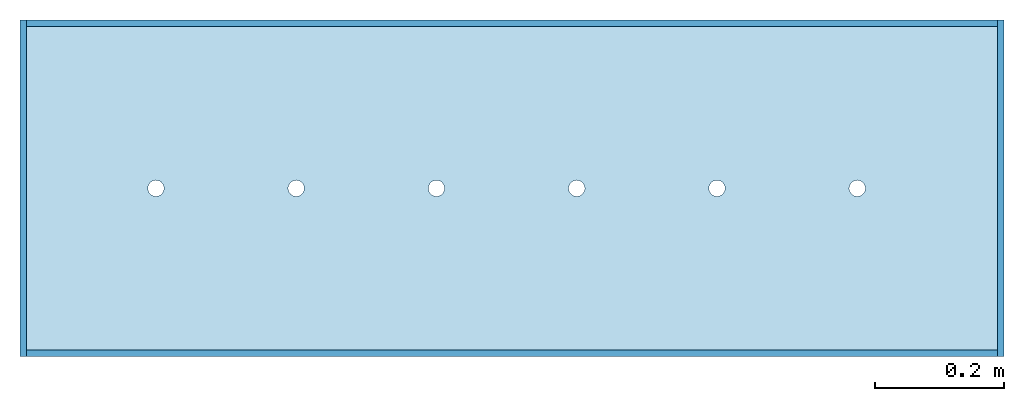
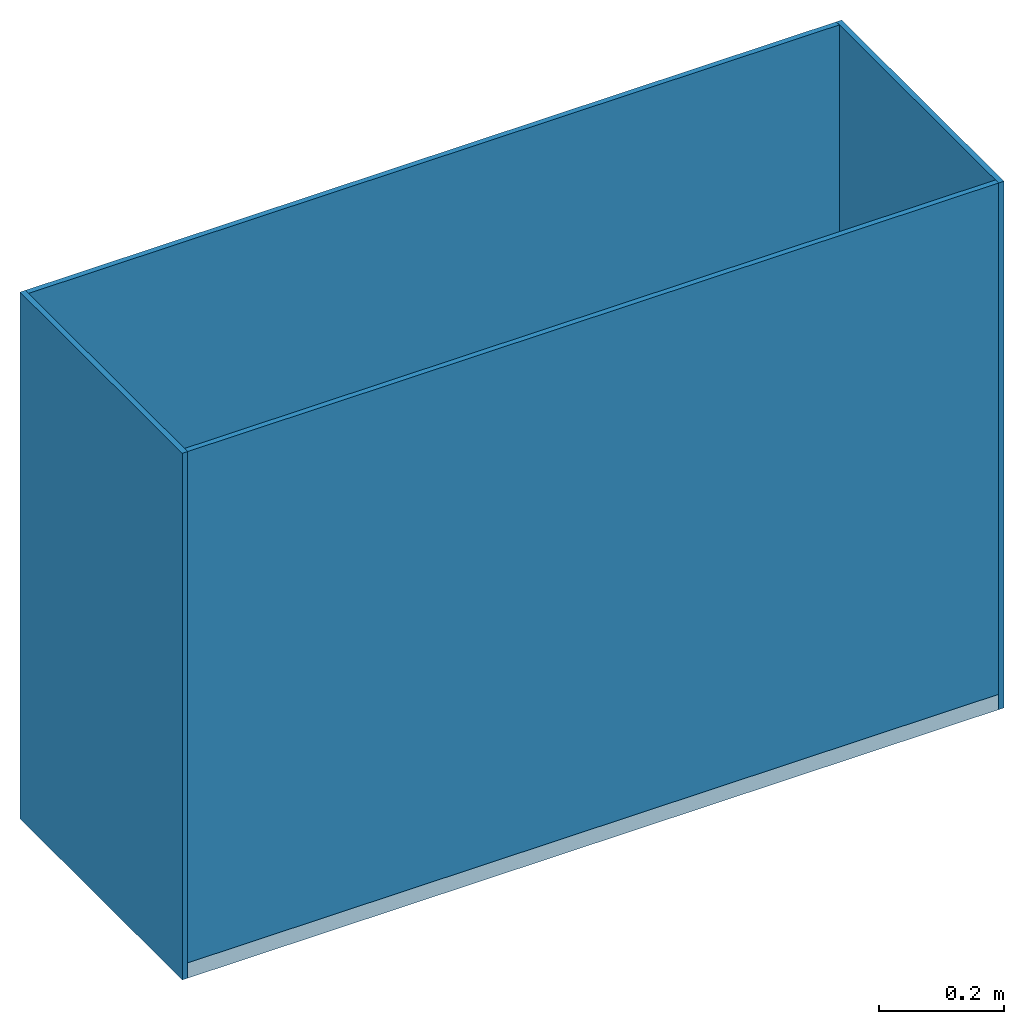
# One storey: 4 walls, 1 slab.
"""IFC4 building model written with IfcOpenShell, lengths in millimetres."""

from ifc_helpers import new_model, entity, si_unit, converted_unit, derived_unit, direction, frame, origin, place, context, subcontext, project, spatial, arc, indexed_curve, outline, extrude, material, type_object, element, save


model = new_model("IFC4")

# Units and contexts
model_context = context("Model", 3, precision=0.01, world=origin(), true_north=direction((6.123031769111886e-17, 1.0)))
body_context = subcontext(model_context, "Body", "Model", "MODEL_VIEW")
ifc_project = project(units=[si_unit("LENGTHUNIT", "METRE", prefix="MILLI"), si_unit("AREAUNIT", "SQUARE_METRE"), si_unit("VOLUMEUNIT", "CUBIC_METRE"), converted_unit("PLANEANGLEUNIT", "DEGREE", entity("IfcRatioMeasure", 0.017453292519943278), si_unit("PLANEANGLEUNIT", "RADIAN"), dimensions=[0, 0, 0, 0, 0, 0, 0]), si_unit("MASSUNIT", "GRAM", prefix="KILO"), derived_unit("MASSDENSITYUNIT", [(si_unit("MASSUNIT", "GRAM", prefix="KILO"), 1), (si_unit("LENGTHUNIT", "METRE"), -3)]), derived_unit("MOMENTOFINERTIAUNIT", [(si_unit("LENGTHUNIT", "METRE"), 4)]), si_unit("TIMEUNIT", "SECOND"), si_unit("FREQUENCYUNIT", "HERTZ"), si_unit("THERMODYNAMICTEMPERATUREUNIT", "DEGREE_CELSIUS"), derived_unit("THERMALTRANSMITTANCEUNIT", [(si_unit("MASSUNIT", "GRAM", prefix="KILO"), 1), (si_unit("THERMODYNAMICTEMPERATUREUNIT", "KELVIN"), -1), (si_unit("TIMEUNIT", "SECOND"), -3)]), derived_unit("VOLUMETRICFLOWRATEUNIT", [(si_unit("LENGTHUNIT", "METRE"), 3), (si_unit("TIMEUNIT", "SECOND"), -1)]), derived_unit("MASSFLOWRATEUNIT", [(si_unit("MASSUNIT", "GRAM", prefix="KILO"), 1), (si_unit("TIMEUNIT", "SECOND"), -1)]), derived_unit("ROTATIONALFREQUENCYUNIT", [(si_unit("TIMEUNIT", "SECOND"), -1)]), si_unit("ELECTRICCURRENTUNIT", "AMPERE"), si_unit("ELECTRICVOLTAGEUNIT", "VOLT"), si_unit("POWERUNIT", "WATT"), si_unit("FORCEUNIT", "NEWTON", prefix="KILO"), si_unit("ILLUMINANCEUNIT", "LUX"), si_unit("LUMINOUSFLUXUNIT", "LUMEN"), si_unit("LUMINOUSINTENSITYUNIT", "CANDELA"), derived_unit("USERDEFINED", [(si_unit("MASSUNIT", "GRAM", prefix="KILO"), -1), (si_unit("LENGTHUNIT", "METRE"), -2), (si_unit("TIMEUNIT", "SECOND"), 3), (si_unit("LUMINOUSFLUXUNIT", "LUMEN"), 1)]), derived_unit("SOUNDPOWERUNIT", [(si_unit("MASSUNIT", "GRAM", prefix="KILO"), 1), (si_unit("LENGTHUNIT", "METRE"), 2), (si_unit("TIMEUNIT", "SECOND"), -3)]), derived_unit("SOUNDPRESSUREUNIT", [(si_unit("MASSUNIT", "GRAM", prefix="KILO"), 1), (si_unit("LENGTHUNIT", "METRE"), -1), (si_unit("TIMEUNIT", "SECOND"), -2)]), derived_unit("LINEARVELOCITYUNIT", [(si_unit("LENGTHUNIT", "METRE"), 1), (si_unit("TIMEUNIT", "SECOND"), -1)]), si_unit("PRESSUREUNIT", "PASCAL"), derived_unit("USERDEFINED", [(si_unit("LENGTHUNIT", "METRE"), -2), (si_unit("MASSUNIT", "GRAM", prefix="KILO"), 1), (si_unit("TIMEUNIT", "SECOND"), -2)]), derived_unit("LINEARFORCEUNIT", [(si_unit("MASSUNIT", "GRAM", prefix="KILO"), 1), (si_unit("LENGTHUNIT", "METRE"), 1), (si_unit("TIMEUNIT", "SECOND"), -2), (si_unit("LENGTHUNIT", "METRE"), -1)]), derived_unit("PLANARFORCEUNIT", [(si_unit("MASSUNIT", "GRAM", prefix="KILO"), 1), (si_unit("LENGTHUNIT", "METRE"), 1), (si_unit("TIMEUNIT", "SECOND"), -2), (si_unit("LENGTHUNIT", "METRE"), -2)])], contexts=[model_context])

# Site, building, storey
site_placement = place(None, origin())
site = spatial("IfcSite", under=ifc_project, at=site_placement, Name="Default", CompositionType="ELEMENT")
building_placement = place(site_placement, origin())
building = spatial("IfcBuilding", under=site, at=building_placement, CompositionType="ELEMENT")
storey_placement = place(building_placement, frame((0.0, 0.0, -0.030000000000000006)))
storey = spatial("IfcBuildingStorey", under=building, at=storey_placement, Name="Base_Canal", CompositionType="ELEMENT", Elevation=-0.030000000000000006)

# Slab
ifc_material_1 = material(Name="Glass 1", Category="Materials")
slab_type = type_object("IfcSlabType", Name="Floor:MyFloorType-Variable", PredefinedType="FLOOR", material=ifc_material_1)
slab_placement = place(storey_placement, origin())
element("IfcSlab", 1, at=slab_placement, inside=storey, type_object=slab_type, material=ifc_material_1, Name="Floor:MyFloorType-Variable", ObjectType="Floor:MyFloorType-Variable", PredefinedType="FLOOR", context=body_context, shape_type="SweptSolid", body=[
    extrude(outline(indexed_curve([(-259.99999999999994, -750.0), (260.0, -750.0), (259.99999999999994, 750.0), (-260.0, 750.0), (-259.99999999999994, -750.0)], self_intersect=False), holes=[indexed_curve([(-12.499999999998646, -550.0), (1.4212631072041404e-12, -537.5000000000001), (12.500000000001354, -550.0000000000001), (1.4212631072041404e-12, -562.5000000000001)], segments=[arc(1, 2, 3), arc(3, 4, 1)], self_intersect=False), indexed_curve([(-12.500000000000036, -333.3333330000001), (0.0, -320.8333330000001), (12.499999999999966, -333.3333330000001), (3.383959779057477e-14, -345.8333330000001)], segments=[arc(1, 2, 3), arc(3, 4, 1)], self_intersect=False), indexed_curve([(-12.500000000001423, -116.66666700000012), (-1.5566214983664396e-12, -104.16666699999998), (12.499999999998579, -116.6666669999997), (-1.2182255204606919e-12, -129.166667)], segments=[arc(1, 2, 3), arc(3, 4, 1)], self_intersect=False), indexed_curve([(-12.500000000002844, 99.99999999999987), (-2.97788460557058e-12, 112.50000000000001), (12.499999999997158, 100.00000000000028), (-2.6394886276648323e-12, 87.5)], segments=[arc(1, 2, 3), arc(3, 4, 1)], self_intersect=False), indexed_curve([(-12.500000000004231, 316.66666699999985), (-4.365308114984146e-12, 329.166667), (12.49999999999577, 316.66666700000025), (-4.026912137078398e-12, 304.166667)], segments=[arc(1, 2, 3), arc(3, 4, 1)], self_intersect=False), indexed_curve([(-12.500000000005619, 533.333333), (-5.617373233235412e-12, 545.8333330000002), (12.499999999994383, 533.333333), (-5.583533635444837e-12, 520.8333329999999)], segments=[arc(1, 2, 3), arc(3, 4, 1)], self_intersect=False)]), frame((750.0, 250.0, -29.97), z_axis=(0.0, 0.0, 1.0), x_axis=(0.0, -1.0, 0.0)), (0.0, 0.0, 1.0), 30.0),
])

# Walls
ifc_material_2 = material(Name="Glass", Category="Materials")
wall_type = type_object("IfcWallType", Name="Basic Wall:MyWall-Variable", PredefinedType="STANDARD")
wall_1_placement = place(storey_placement, frame((0.0, -5.0, 0.030000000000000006)))
element("IfcWall", 2, at=wall_1_placement, inside=storey, type_object=wall_type, material=ifc_material_2, Name="Basic Wall:MyWall-Variable:2854", ObjectType="Basic Wall:MyWall-Variable", PredefinedType="NOTDEFINED", context=body_context, shape_type="SweptSolid", body=[
    extrude(outline(indexed_curve([(1500.0, 5.0), (0.0, 5.0), (0.0, -5.0), (1500.0, -5.0), (1500.0, 5.0)], self_intersect=False)), origin(), (0.0, 0.0, 1.0), 1000.0000000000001),
])
wall_2_placement = place(storey_placement, frame((0.0, 505.0, 0.030000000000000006)))
element("IfcWall", 3, at=wall_2_placement, inside=storey, type_object=wall_type, material=ifc_material_2, Name="Basic Wall:MyWall-Variable:2964", ObjectType="Basic Wall:MyWall-Variable", PredefinedType="NOTDEFINED", context=body_context, shape_type="SweptSolid", body=[
    extrude(outline(indexed_curve([(1500.0, 5.000000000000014), (0.0, 5.000000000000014), (0.0, -5.000000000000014), (1500.0, -5.000000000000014), (1500.0, 5.000000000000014)], self_intersect=False)), origin(), (0.0, 0.0, 1.0), 1000.0000000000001),
])
wall_3_placement = place(storey_placement, frame((-5.0, -10.0, -29.969999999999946), z_axis=(0.0, 0.0, 1.0), x_axis=(0.0, 1.0, 0.0)))
element("IfcWall", 4, at=wall_3_placement, inside=storey, type_object=wall_type, material=ifc_material_2, Name="Basic Wall:MyWall-Variable", ObjectType="Basic Wall:MyWall-Variable", PredefinedType="NOTDEFINED", context=body_context, shape_type="SweptSolid", body=[
    extrude(outline(indexed_curve([(520.0, 5.0), (0.0, 5.0), (0.0, -5.0), (520.0, -5.0), (520.0, 5.0)], self_intersect=False)), origin(), (0.0, 0.0, 1.0), 1030.0),
])
wall_4_placement = place(storey_placement, frame((1505.0, -10.0, -29.969999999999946), z_axis=(0.0, 0.0, 1.0), x_axis=(0.0, 1.0, 0.0)))
element("IfcWall", 5, at=wall_4_placement, inside=storey, type_object=wall_type, material=ifc_material_2, Name="Basic Wall:MyWall-Variable", ObjectType="Basic Wall:MyWall-Variable", PredefinedType="NOTDEFINED", context=body_context, shape_type="SweptSolid", body=[
    extrude(outline(indexed_curve([(520.0, 4.999999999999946), (0.0, 4.999999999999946), (0.0, -4.999999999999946), (520.0, -4.999999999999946), (520.0, 4.999999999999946)], self_intersect=False)), origin(), (0.0, 0.0, 1.0), 1030.0),
])

save(model, "model.ifc")
